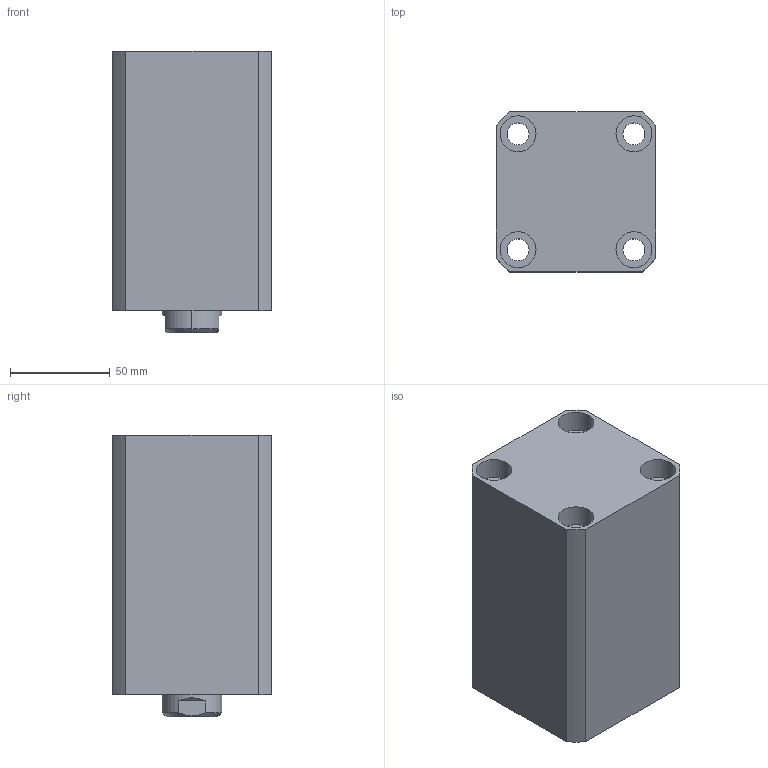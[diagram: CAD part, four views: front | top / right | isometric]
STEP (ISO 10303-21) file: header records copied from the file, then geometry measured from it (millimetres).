
FILE_DESCRIPTION (( 'STEP AP203' ), '1' );
FILE_NAME ('CHTB-SDMA50-70N.STEP', '2018-05-19T02:33:05', ( '' ), ( '' ), 'SwSTEP 2.0', 'SolidWorks 2015', '' );
FILE_SCHEMA (( 'CONFIG_CONTROL_DESIGN' ));
Length unit declared in the file: millimetre
Products named in the file (5): CHTM-SDMA50QG; M6; 活塞杆SDMA50-70N; 掛极SDMA50-70N; CHTB-SDMA50-70N
Assembly tree (5 placements, depth 2):
  CHTB-SDMA50-70N
    掛极SDMA50-70N
    CHTM-SDMA50QG
    活塞杆SDMA50-70N
    M6  x2
Bounding box: 80 x 80 x 141 mm (x, y, z)
Volume: 662613.8 mm3; surface area: 128063.3 mm2
Topology: 5 solids, 5 shells, 270 faces, 703 edges, 464 vertices
Faces by surface type: cylinder 139, plane 58, cone 31, bspline 26, torus 16
Entity records: 14133 total; most frequent: CARTESIAN_POINT 8131, ORIENTED_EDGE 1208, DIRECTION 1054, EDGE_CURVE 604, AXIS2_PLACEMENT_3D 433, VERTEX_POINT 403, EDGE_LOOP 277, ADVANCED_FACE 235
